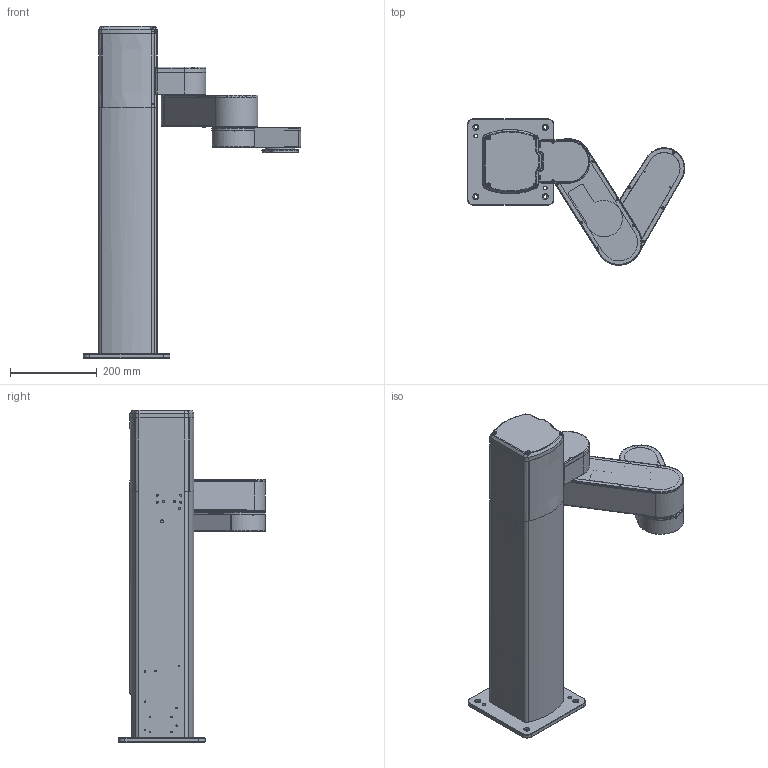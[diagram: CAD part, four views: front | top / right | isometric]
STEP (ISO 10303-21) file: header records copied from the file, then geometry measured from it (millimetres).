
FILE_DESCRIPTION(('CATIA V5 STEP Exchange'),'2;1');
FILE_NAME('E:\YFX工作文件\1 机械臂\Z-Arm 2442\9.7.4 20套改版 V1.1.0\4142\简图\Z-Arm 4142C0.stp','2021-07-29T07:33:15+00:00',('none'),('none'),'CATIA Version 5 Release 20 GA (IN-10)','CATIA V5 STEP AP203','none');
FILE_SCHEMA(('CONFIG_CONTROL_DESIGN'));
Length unit declared in the file: millimetre
Products named in the file (6): 产品1; 产品5; LIANJIEBAN; 101-012-10-01-02; 101-012-10-03; 101-012-10-02
Assembly tree (27 placements, depth 4):
  产品1
    产品5
      #66
      #9158
      #11585
      LIANJIEBAN
        #15960
        #19988
      #20604
      #22781  x3
      #23709
    101-012-10-01-02
      #28076
      #31219
    101-012-10-03
      #34685
      #36931
      #38288
      #39329
    101-012-10-02
      #40110
      #42742
      #44334
      #45749
      #47648
    #48167
Bounding box: 501.97 x 339.21 x 766 mm (x, y, z)
Volume: 7423356.1 mm3; surface area: 1418348.4 mm2
Topology: 22 solids, 22 shells, 1607 faces, 4237 edges, 2703 vertices
Faces by surface type: cylinder 733, plane 479, cone 254, extrusion 73, torus 51, sphere 12, bspline 5
Entity records: 52593 total; most frequent: CARTESIAN_POINT 15438, ORIENTED_EDGE 8074, DIRECTION 6279, EDGE_CURVE 4037, AXIS2_PLACEMENT_3D 2789, VERTEX_POINT 2611, VECTOR 2078, LINE 2005
